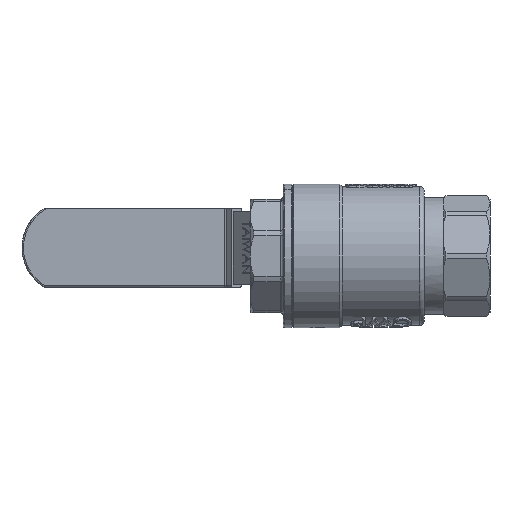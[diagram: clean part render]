
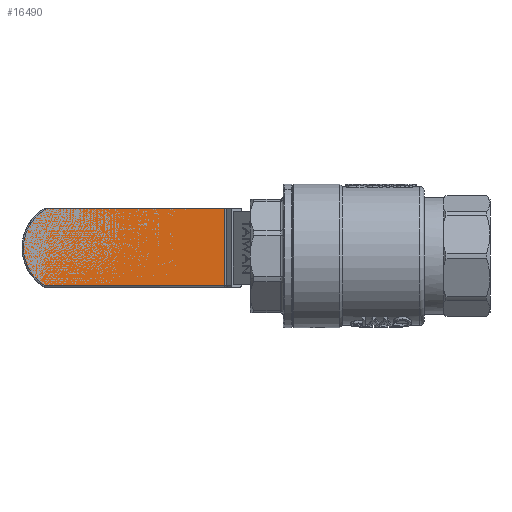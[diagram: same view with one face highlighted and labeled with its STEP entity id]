
A CAD part, front view. The second image highlights one B-rep face of the part: STEP entity #16490.
In plain terms, the highlighted planar face has unit normal (0, -1, 0).
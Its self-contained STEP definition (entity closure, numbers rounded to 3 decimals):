
#4687 = VERTEX_POINT ( 'NONE', #134698 ) ;
#5911 = CARTESIAN_POINT ( 'NONE',  ( 50.456, 20.5, 13.15 ) ) ;
#14145 = ORIENTED_EDGE ( 'NONE', *, *, #83653, .T. ) ;
#15613 = EDGE_LOOP ( 'NONE', ( #114522, #50256, #15987, #14145 ) ) ;
#15987 = ORIENTED_EDGE ( 'NONE', *, *, #78957, .T. ) ;
#16490 = ADVANCED_FACE ( 'NONE', ( #81873 ), #129800, .F. ) ;
#17972 = DIRECTION ( 'NONE',  ( 1., 0., 0. ) ) ;
#20327 = VERTEX_POINT ( 'NONE', #122783 ) ;
#23276 = VECTOR ( 'NONE', #17972, 1000. ) ;
#25592 = CIRCLE ( 'NONE', #28735, 15.5 ) ;
#26785 = CARTESIAN_POINT ( 'NONE',  ( 50.456, 20.5, -13.65 ) ) ;
#28262 = DIRECTION ( 'NONE',  ( 0., 0., -1. ) ) ;
#28735 = AXIS2_PLACEMENT_3D ( 'NONE', #117722, #43751, #130211 ) ;
#30316 = CARTESIAN_POINT ( 'NONE',  ( 49.6, 20.5, -13.65 ) ) ;
#33976 = VECTOR ( 'NONE', #75483, 1000. ) ;
#43751 = DIRECTION ( 'NONE',  ( 0., -1., 0. ) ) ;
#44595 = VERTEX_POINT ( 'NONE', #5911 ) ;
#44908 = VERTEX_POINT ( 'NONE', #26785 ) ;
#50256 = ORIENTED_EDGE ( 'NONE', *, *, #69209, .T. ) ;
#63040 = CARTESIAN_POINT ( 'NONE',  ( 50.456, 20.5, 13.15 ) ) ;
#66744 = LINE ( 'NONE', #63040, #33976 ) ;
#67609 = CARTESIAN_POINT ( 'NONE',  ( 49.6, 20.5, 12.65 ) ) ;
#68157 = DIRECTION ( 'NONE',  ( 0., 0., 1. ) ) ;
#69209 = EDGE_CURVE ( 'NONE', #4687, #20327, #25592, .T. ) ;
#75483 = DIRECTION ( 'NONE',  ( -1., 0., 0. ) ) ;
#78957 = EDGE_CURVE ( 'NONE', #20327, #44595, #66744, .T. ) ;
#81024 = LINE ( 'NONE', #30316, #23276 ) ;
#81873 = FACE_OUTER_BOUND ( 'NONE', #15613, .T. ) ;
#83653 = EDGE_CURVE ( 'NONE', #44595, #44908, #118203, .T. ) ;
#85323 = VECTOR ( 'NONE', #28262, 1000. ) ;
#112099 = EDGE_CURVE ( 'NONE', #44908, #4687, #81024, .T. ) ;
#114522 = ORIENTED_EDGE ( 'NONE', *, *, #112099, .T. ) ;
#117722 = CARTESIAN_POINT ( 'NONE',  ( 105., 20.5, 0. ) ) ;
#118203 = LINE ( 'NONE', #151446, #85323 ) ;
#122783 = CARTESIAN_POINT ( 'NONE',  ( 113.205, 20.5, 13.15 ) ) ;
#129800 = PLANE ( 'NONE',  #159379 ) ;
#130211 = DIRECTION ( 'NONE',  ( 0., 0., 1. ) ) ;
#134698 = CARTESIAN_POINT ( 'NONE',  ( 112.344, 20.5, -13.65 ) ) ;
#142255 = DIRECTION ( 'NONE',  ( 0., 1., 0. ) ) ;
#151446 = CARTESIAN_POINT ( 'NONE',  ( 50.456, 20.5, 12.65 ) ) ;
#159379 = AXIS2_PLACEMENT_3D ( 'NONE', #67609, #142255, #68157 ) ;
